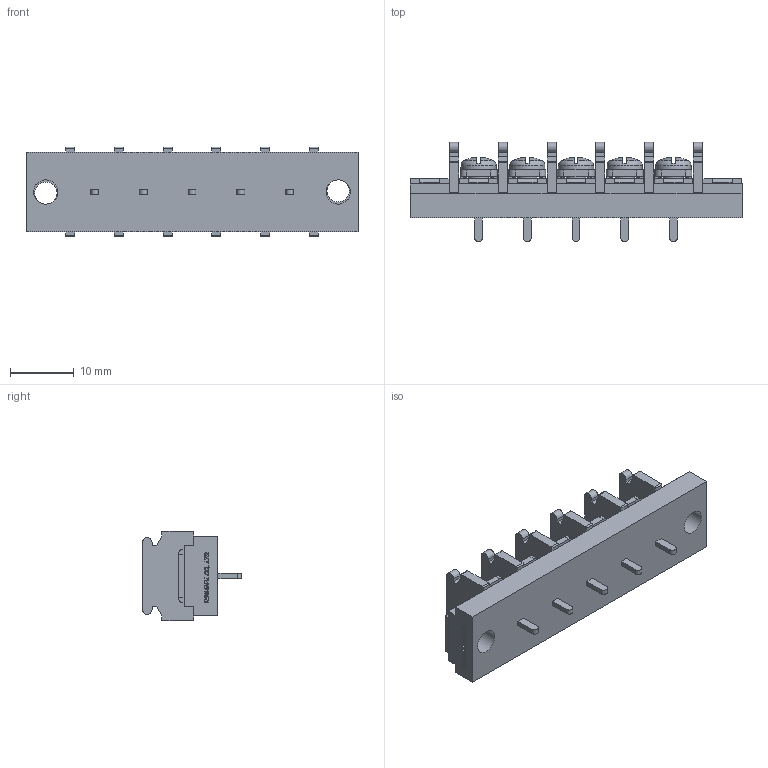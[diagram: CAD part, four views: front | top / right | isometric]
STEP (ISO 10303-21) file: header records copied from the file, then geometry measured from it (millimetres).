
FILE_DESCRIPTION(/* description */ ('Alibre Inc.'),/* implementation_level */ '2;1');
FILE_NAME(/* name */ 'export0',/* time_stamp */ '2015-10-23T19:18:01+09:00',/* author */ (''),/* organization */ (''),/* preprocessor_version */ 'ST-DEVELOPER v14',/* originating_system */ 'Alibre',/* authorisation */ '');
FILE_SCHEMA (('CONFIG_CONTROL_DESIGN'));
Length unit declared in the file: centimetre
Products named in the file (1): ID_1
Bounding box: 51.92 x 15.5 x 14 mm (x, y, z)
Volume: 4495.6 mm3; surface area: 4306.5 mm2
Topology: 1 solids, 1 shells, 1000 faces, 2730 edges, 1794 vertices
Faces by surface type: plane 767, bspline 104, cylinder 89, cone 20, torus 10, sphere 10
Full cylindrical faces by diameter (mm): 3 x5, 3.5 x2, 3.8 x2, 5.5 x5
Entity records: 30109 total; most frequent: CARTESIAN_POINT 6597, ORIENTED_EDGE 5384, DIRECTION 3654, EDGE_CURVE 2692, VECTOR 2002, LINE 2002, VERTEX_POINT 1780, AXIS2_PLACEMENT_3D 1187
